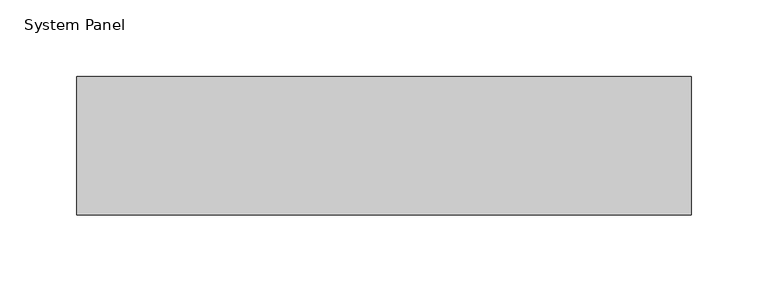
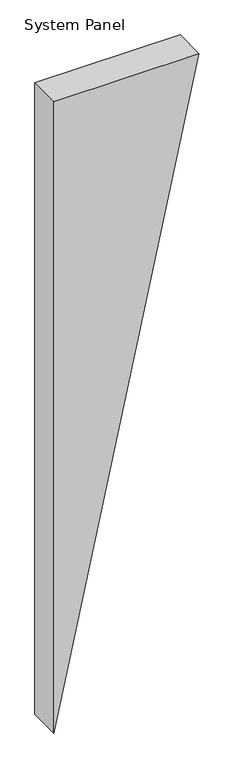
"""IFC4 building model written with IfcOpenShell, lengths in millimetres: plate geometry, System Panel : InsulWall_90mm_Plain_Surfmist."""

from ifc_helpers import new_model, si_unit, frame, origin, place, context, project, spatial, polyline, outline, extrude, source, transform, mapped, element, save


def system_panel_50c1d81c(model_context):
    return source(origin(), model_context, "Body", "SweptSolid", [
        extrude(outline(polyline([(1839.9852118, -200.0), (0.0, -200.0), (1839.9852118, 200.0), (1839.9852118, -200.0)])), frame((0.0, -90.0, 0.0), z_axis=(0.0, 1.0, 0.0), x_axis=(0.0, 0.0, 1.0)), (0.0, 0.0, 1.0), 90.0),
    ])


if __name__ == "__main__":
    model = new_model("IFC4")
    model_context = context("Model", 3, world=origin())
    ifc_project = project(units=[si_unit("LENGTHUNIT", "METRE", prefix="MILLI")], contexts=[model_context])
    site = spatial("IfcSite", under=ifc_project)
    building = spatial("IfcBuilding", under=site)
    placement = place(None, origin())
    system_panel_shape = system_panel_50c1d81c(model_context)
    element("IfcPlate", 1, ObjectType="System Panel : InsulWall_90mm_Plain_Surfmist", at=placement, inside=building, context=model_context, shape_type="MappedRepresentation", body=[
        mapped(system_panel_shape, transform((0.0, 0.0, 0.0), x_axis=(1.0, 0.0, 0.0), y_axis=(0.0, 1.0, 0.0), z_axis=(0.0, 0.0, 1.0))),
    ])
    save(model, "model.ifc")
